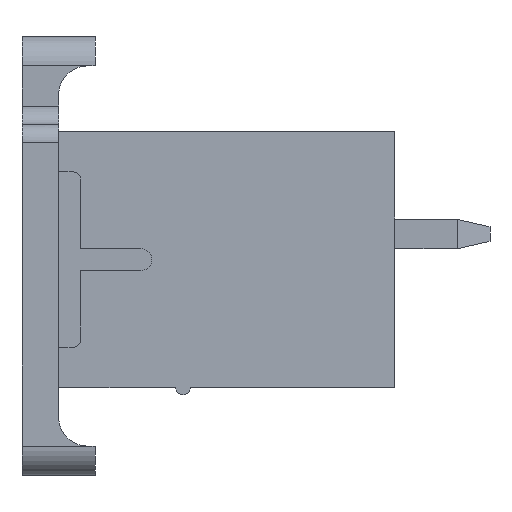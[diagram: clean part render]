
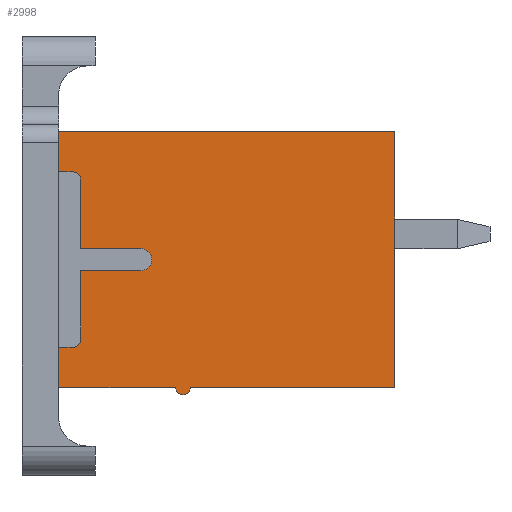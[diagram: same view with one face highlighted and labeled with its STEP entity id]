
A CAD part, left-side view. The second image highlights one B-rep face of the part: STEP entity #2998.
In plain terms, the highlighted planar face has unit normal (-1, 0, 0).
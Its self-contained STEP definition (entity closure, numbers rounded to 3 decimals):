
#415=CARTESIAN_POINT('',(0.15,8.8,-6.1));
#416=DIRECTION('',(1.,0.,0.));
#417=DIRECTION('',(0.,-1.,0.));
#418=AXIS2_PLACEMENT_3D('',#415,#416,#417);
#420=CARTESIAN_POINT('',(0.15,6.95,-3.9));
#421=DIRECTION('',(1.,0.,0.));
#422=DIRECTION('',(0.,0.,1.));
#423=AXIS2_PLACEMENT_3D('',#420,#421,#422);
#425=CARTESIAN_POINT('',(0.15,8.8,-1.7));
#426=DIRECTION('',(1.,0.,0.));
#427=DIRECTION('',(0.,0.,1.));
#428=AXIS2_PLACEMENT_3D('',#425,#426,#427);
#430=DIRECTION('',(0.,0.,-1.));
#431=VECTOR('',#430,1.1);
#432=CARTESIAN_POINT('',(0.15,9.2,-0.4));
#433=LINE('',#432,#431);
#434=DIRECTION('',(0.,1.,0.));
#435=VECTOR('',#434,9.2);
#436=CARTESIAN_POINT('',(0.15,0.,-0.4));
#437=LINE('',#436,#435);
#438=DIRECTION('',(0.,0.,1.));
#439=VECTOR('',#438,7.);
#440=CARTESIAN_POINT('',(0.15,0.,-7.4));
#441=LINE('',#440,#439);
#442=DIRECTION('',(0.,-1.,0.));
#443=VECTOR('',#442,5.6);
#444=CARTESIAN_POINT('',(0.15,5.6,-7.4));
#445=LINE('',#444,#443);
#446=CARTESIAN_POINT('',(0.15,5.8,-7.4));
#447=DIRECTION('',(-1.,0.,0.));
#448=DIRECTION('',(0.,1.,0.));
#449=AXIS2_PLACEMENT_3D('',#446,#447,#448);
#451=DIRECTION('',(0.,0.,-1.));
#452=VECTOR('',#451,1.1);
#453=CARTESIAN_POINT('',(0.15,9.2,-6.3));
#454=LINE('',#453,#452);
#455=DIRECTION('',(0.,-1.,0.));
#456=VECTOR('',#455,0.4);
#457=CARTESIAN_POINT('',(0.15,9.2,-6.3));
#458=LINE('',#457,#456);
#475=DIRECTION('',(0.,0.,1.));
#476=VECTOR('',#475,1.9);
#477=CARTESIAN_POINT('',(0.15,8.6,-6.1));
#478=LINE('',#477,#476);
#483=DIRECTION('',(0.,-1.,0.));
#484=VECTOR('',#483,1.65);
#485=CARTESIAN_POINT('',(0.15,8.6,-4.2));
#486=LINE('',#485,#484);
#503=DIRECTION('',(0.,1.,0.));
#504=VECTOR('',#503,1.65);
#505=CARTESIAN_POINT('',(0.15,6.95,-3.6));
#506=LINE('',#505,#504);
#511=DIRECTION('',(0.,0.,1.));
#512=VECTOR('',#511,1.9);
#513=CARTESIAN_POINT('',(0.15,8.6,-3.6));
#514=LINE('',#513,#512);
#531=DIRECTION('',(0.,1.,0.));
#532=VECTOR('',#531,0.4);
#533=CARTESIAN_POINT('',(0.15,8.8,-1.5));
#534=LINE('',#533,#532);
#1413=DIRECTION('',(0.,1.,0.));
#1414=VECTOR('',#1413,3.2);
#1415=CARTESIAN_POINT('',(0.15,6.,-7.4));
#1416=LINE('',#1415,#1414);
#1745=CARTESIAN_POINT('',(0.15,5.6,-7.4));
#1746=CARTESIAN_POINT('',(0.15,0.,-7.4));
#1747=VERTEX_POINT('',#1745);
#1748=VERTEX_POINT('',#1746);
#1821=CARTESIAN_POINT('',(0.15,9.2,-0.4));
#1822=CARTESIAN_POINT('',(0.15,9.2,-1.5));
#1823=VERTEX_POINT('',#1821);
#1824=VERTEX_POINT('',#1822);
#1829=CARTESIAN_POINT('',(0.15,9.2,-6.3));
#1830=VERTEX_POINT('',#1829);
#1831=CARTESIAN_POINT('',(0.15,9.2,-7.4));
#1832=VERTEX_POINT('',#1831);
#1837=CARTESIAN_POINT('',(0.15,0.,-0.4));
#1838=VERTEX_POINT('',#1837);
#1839=CARTESIAN_POINT('',(0.15,8.6,-6.1));
#1840=CARTESIAN_POINT('',(0.15,8.8,-6.3));
#1841=VERTEX_POINT('',#1839);
#1842=VERTEX_POINT('',#1840);
#1843=CARTESIAN_POINT('',(0.15,8.6,-4.2));
#1844=VERTEX_POINT('',#1843);
#1845=CARTESIAN_POINT('',(0.15,6.95,-4.2));
#1846=VERTEX_POINT('',#1845);
#1847=CARTESIAN_POINT('',(0.15,6.95,-3.6));
#1848=VERTEX_POINT('',#1847);
#1849=CARTESIAN_POINT('',(0.15,8.6,-3.6));
#1850=VERTEX_POINT('',#1849);
#1851=CARTESIAN_POINT('',(0.15,8.6,-1.7));
#1852=VERTEX_POINT('',#1851);
#1853=CARTESIAN_POINT('',(0.15,8.8,-1.5));
#1854=VERTEX_POINT('',#1853);
#1855=CARTESIAN_POINT('',(0.15,6.,-7.4));
#1856=VERTEX_POINT('',#1855);
#2963=CARTESIAN_POINT('',(0.15,4.6,-4.));
#2964=DIRECTION('',(1.,0.,0.));
#2965=DIRECTION('',(0.,0.,-1.));
#2966=AXIS2_PLACEMENT_3D('',#2963,#2964,#2965);
#2967=PLANE('',#2966);
#2969=ORIENTED_EDGE('',*,*,#2968,.T.);
#2971=ORIENTED_EDGE('',*,*,#2970,.F.);
#2973=ORIENTED_EDGE('',*,*,#2972,.T.);
#2975=ORIENTED_EDGE('',*,*,#2974,.T.);
#2977=ORIENTED_EDGE('',*,*,#2976,.F.);
#2979=ORIENTED_EDGE('',*,*,#2978,.T.);
#2981=ORIENTED_EDGE('',*,*,#2980,.T.);
#2983=ORIENTED_EDGE('',*,*,#2982,.F.);
#2985=ORIENTED_EDGE('',*,*,#2984,.T.);
#2986=ORIENTED_EDGE('',*,*,#2589,.F.);
#2987=ORIENTED_EDGE('',*,*,#2513,.F.);
#2989=ORIENTED_EDGE('',*,*,#2988,.F.);
#2990=ORIENTED_EDGE('',*,*,#2417,.F.);
#2992=ORIENTED_EDGE('',*,*,#2991,.F.);
#2994=ORIENTED_EDGE('',*,*,#2993,.T.);
#2995=ORIENTED_EDGE('',*,*,#2597,.F.);
#2996=EDGE_LOOP('',(#2969,#2971,#2973,#2975,#2977,#2979,#2981,#2983,#2985,#2986,
#2987,#2989,#2990,#2992,#2994,#2995));
#2997=FACE_OUTER_BOUND('',#2996,.F.);
#2998=ADVANCED_FACE('',(#2997),#2967,.F.);
#419=CIRCLE('',#418,0.2);
#424=CIRCLE('',#423,0.3);
#429=CIRCLE('',#428,0.2);
#450=CIRCLE('',#449,0.2);
#2417=EDGE_CURVE('',#1747,#1748,#445,.T.);
#2513=EDGE_CURVE('',#1838,#1823,#437,.T.);
#2589=EDGE_CURVE('',#1823,#1824,#433,.T.);
#2597=EDGE_CURVE('',#1830,#1832,#454,.T.);
#2968=EDGE_CURVE('',#1830,#1842,#458,.T.);
#2970=EDGE_CURVE('',#1841,#1842,#419,.T.);
#2972=EDGE_CURVE('',#1841,#1844,#478,.T.);
#2974=EDGE_CURVE('',#1844,#1846,#486,.T.);
#2976=EDGE_CURVE('',#1848,#1846,#424,.T.);
#2978=EDGE_CURVE('',#1848,#1850,#506,.T.);
#2980=EDGE_CURVE('',#1850,#1852,#514,.T.);
#2982=EDGE_CURVE('',#1854,#1852,#429,.T.);
#2984=EDGE_CURVE('',#1854,#1824,#534,.T.);
#2988=EDGE_CURVE('',#1748,#1838,#441,.T.);
#2991=EDGE_CURVE('',#1856,#1747,#450,.T.);
#2993=EDGE_CURVE('',#1856,#1832,#1416,.T.);
